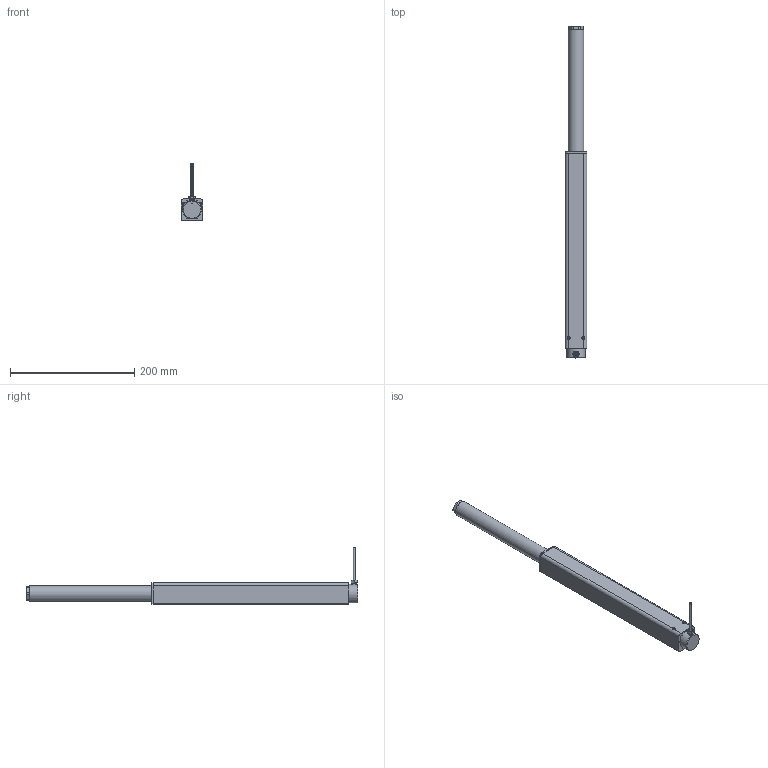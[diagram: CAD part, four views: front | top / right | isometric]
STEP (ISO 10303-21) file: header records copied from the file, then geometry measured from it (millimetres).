
FILE_DESCRIPTION(/* description */ ('Unknown'),/* implementation_level */ '2;1');
FILE_NAME(/* name */ '106.20182 Lineareinheit LA 1820 R_ausgefahren',/* time_stamp */ '2017-10-06T10:19:12+02:00',/* author */ ('Unknown'),/* organization */ ('Unknown'),/* preprocessor_version */ 'ST-DEVELOPER v16.7',/* originating_system */ 'DEX',/* authorisation */ $);
FILE_SCHEMA (('AUTOMOTIVE_DESIGN {1 0 10303 214 3 1 1}'));
Products named in the file (11): 106.20182; 119.00002; 142.00014; 142.00021; 125.00021; 115.00008; 125.00062; 122.00018; 125.00051; 123.00002; 113.00002_70mm
Assembly tree (11 placements, depth 2):
  106.20182
    119.00002
    142.00014  x2
    142.00021
    125.00021
    115.00008
    125.00062
    122.00018
    125.00051
    123.00002
    113.00002_70mm
Bounding box: 35 x 534 x 91.75 mm (x, y, z)
Volume: 253459.6 mm3; surface area: 162535.2 mm2
Topology: 10 solids, 10 shells, 810 faces, 1896 edges, 1132 vertices
Faces by surface type: cylinder 280, bspline 224, plane 214, cone 50, torus 29, sphere 13
Full cylindrical faces by diameter (mm): 2.2 x1, 3.5 x2, 4 x7, 4.1 x1, 4.134 x4, 4.2 x1, 6.647 x1, 6.917 x2, 8 x2, 8.376 x1, 14.4 x1, 17.3 x1, 17.9 x2, 19 x2, 20.8 x3, 21 x1, 25 x1, 29.5 x2, 30.63 x1
Entity records: 76151 total; most frequent: CARTESIAN_POINT 59516, ORIENTED_EDGE 3508, DIRECTION 2671, EDGE_CURVE 1754, VERTEX_POINT 1077, AXIS2_PLACEMENT_3D 1047, FACE_BOUND 921, EDGE_LOOP 919
